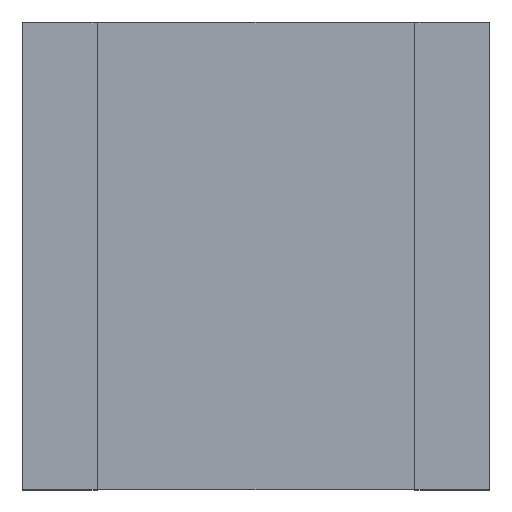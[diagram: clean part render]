
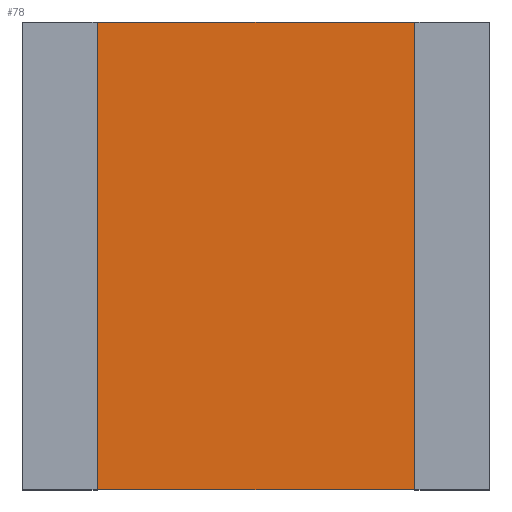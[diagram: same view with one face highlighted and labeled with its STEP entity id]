
A CAD part, top view. The second image highlights one B-rep face of the part: STEP entity #78.
In plain terms, the highlighted planar face has unit normal (0, 0, 1).
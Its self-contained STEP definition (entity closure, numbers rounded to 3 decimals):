
#78=ADVANCED_FACE('',(#312),#314,.T.);
#312=FACE_BOUND('',#313,.T.);
#313=EDGE_LOOP('',(#494,#495,#496,#497));
#314=PLANE('',#315);
#315=AXIS2_PLACEMENT_3D('',#316,#317,#318);
#316=CARTESIAN_POINT('',(-0.575,-0.625,0.69));
#317=DIRECTION('',(0.,0.,1.));
#318=DIRECTION('',(1.,0.,0.));
#494=ORIENTED_EDGE('',*,*,#614,.T.);
#495=ORIENTED_EDGE('',*,*,#615,.T.);
#496=ORIENTED_EDGE('',*,*,#616,.F.);
#497=ORIENTED_EDGE('',*,*,#617,.F.);
#614=EDGE_CURVE('',#674,#675,#676,.T.);
#615=EDGE_CURVE('',#675,#677,#678,.T.);
#616=EDGE_CURVE('',#679,#677,#680,.T.);
#617=EDGE_CURVE('',#674,#679,#681,.T.);
#674=VERTEX_POINT('',#774);
#675=VERTEX_POINT('',#775);
#676=LINE('',#776,#777);
#677=VERTEX_POINT('',#779);
#678=LINE('',#780,#781);
#679=VERTEX_POINT('',#783);
#680=LINE('',#784,#785);
#681=LINE('',#787,#788);
#774=CARTESIAN_POINT('',(-0.575,-0.625,0.69));
#775=CARTESIAN_POINT('',(0.575,-0.625,0.69));
#776=CARTESIAN_POINT('',(-0.575,-0.625,0.69));
#777=VECTOR('',#778,1.);
#778=DIRECTION('',(1.,0.,0.));
#779=CARTESIAN_POINT('',(0.575,0.625,0.69));
#780=CARTESIAN_POINT('',(0.575,-0.625,0.69));
#781=VECTOR('',#782,1.);
#782=DIRECTION('',(0.,1.,0.));
#783=CARTESIAN_POINT('',(-0.575,0.625,0.69));
#784=CARTESIAN_POINT('',(-0.575,0.625,0.69));
#785=VECTOR('',#786,1.);
#786=DIRECTION('',(1.,0.,0.));
#787=CARTESIAN_POINT('',(-0.575,-0.625,0.69));
#788=VECTOR('',#789,1.);
#789=DIRECTION('',(0.,1.,0.));
